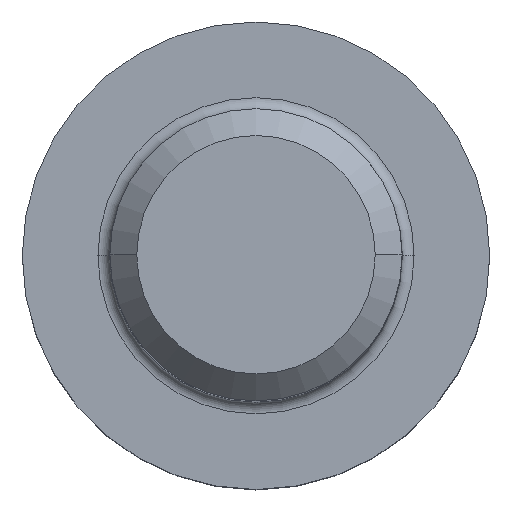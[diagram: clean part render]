
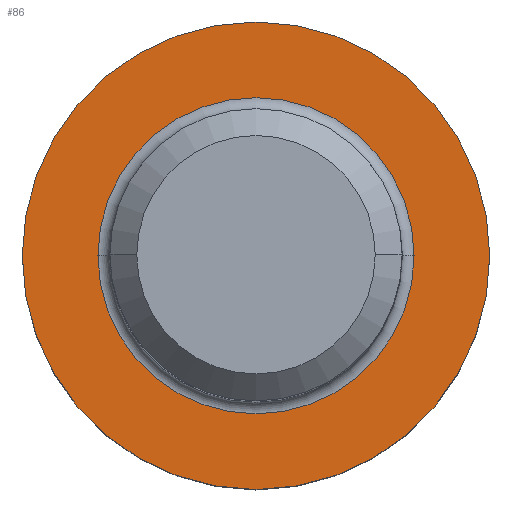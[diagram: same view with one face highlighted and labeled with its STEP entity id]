
A CAD part, top view. The second image highlights one B-rep face of the part: STEP entity #86.
In plain terms, the highlighted planar face has unit normal (0, 0, 1).
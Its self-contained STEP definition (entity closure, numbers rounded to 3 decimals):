
#86=ADVANCED_FACE('',(#168,#169),#170,.T.);
#168=FACE_BOUND('',#242,.T.);
#169=FACE_OUTER_BOUND('',#243,.T.);
#170=PLANE('',#244);
#242=EDGE_LOOP('',(#412,#413));
#243=EDGE_LOOP('',(#414,#415));
#244=AXIS2_PLACEMENT_3D('',#416,#417,#418);
#412=ORIENTED_EDGE('',*,*,#451,.T.);
#413=ORIENTED_EDGE('',*,*,#432,.T.);
#414=ORIENTED_EDGE('',*,*,#424,.T.);
#415=ORIENTED_EDGE('',*,*,#483,.T.);
#416=CARTESIAN_POINT('',(2.5,0.0,0.0));
#417=DIRECTION('',(0.0,0.0,1.0));
#418=DIRECTION('',(1.0,0.0,0.0));
#424=EDGE_CURVE('',#488,#492,#494,.T.);
#432=EDGE_CURVE('',#506,#503,#507,.T.);
#451=EDGE_CURVE('',#503,#506,#533,.T.);
#483=EDGE_CURVE('',#492,#488,#577,.T.);
#488=VERTEX_POINT('',#582);
#492=VERTEX_POINT('',#587);
#494=CIRCLE('',#590,8.0);
#503=VERTEX_POINT('',#599);
#506=VERTEX_POINT('',#602);
#507=CIRCLE('',#603,5.41);
#533=CIRCLE('',#633,5.41);
#577=CIRCLE('',#695,8.0);
#582=CARTESIAN_POINT('',(8.0,0.0,0.0));
#587=CARTESIAN_POINT('',(-8.0,0.,0.0));
#590=AXIS2_PLACEMENT_3D('',#703,#704,#705);
#599=CARTESIAN_POINT('',(5.41,0.0,0.0));
#602=CARTESIAN_POINT('',(-5.41,0.,0.0));
#603=AXIS2_PLACEMENT_3D('',#721,#722,#723);
#633=AXIS2_PLACEMENT_3D('',#755,#756,#757);
#695=AXIS2_PLACEMENT_3D('',#779,#780,#781);
#703=CARTESIAN_POINT('',(0.0,0.0,0.0));
#704=DIRECTION('',(0.0,0.0,1.0));
#705=DIRECTION('',(1.0,0.0,0.0));
#721=CARTESIAN_POINT('',(0.0,0.0,0.0));
#722=DIRECTION('',(0.0,0.0,-1.0));
#723=DIRECTION('',(1.0,0.0,0.0));
#755=CARTESIAN_POINT('',(0.0,0.0,0.0));
#756=DIRECTION('',(0.0,0.0,-1.0));
#757=DIRECTION('',(1.0,0.0,0.0));
#779=CARTESIAN_POINT('',(0.0,0.0,0.0));
#780=DIRECTION('',(0.0,0.0,1.0));
#781=DIRECTION('',(1.0,0.0,0.0));
